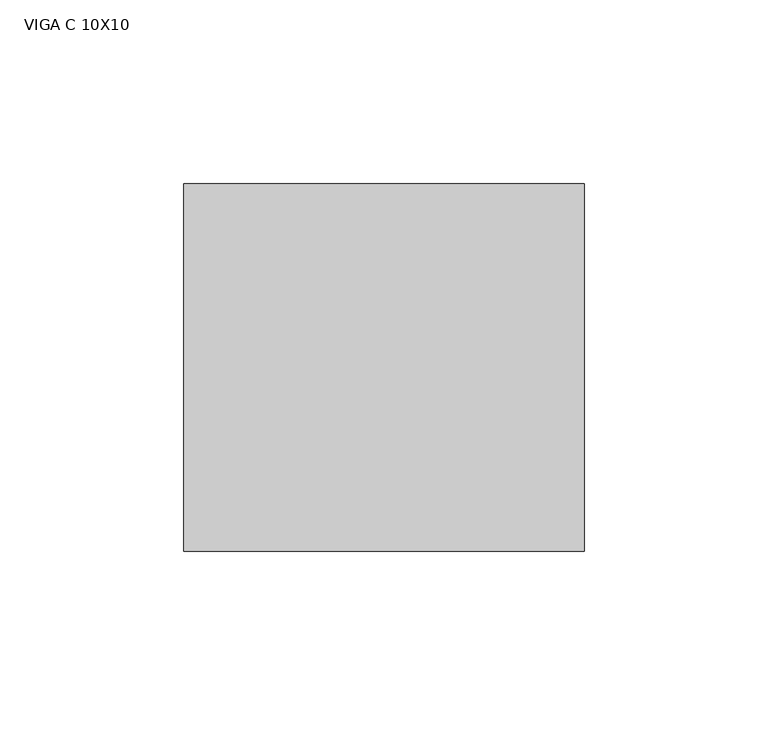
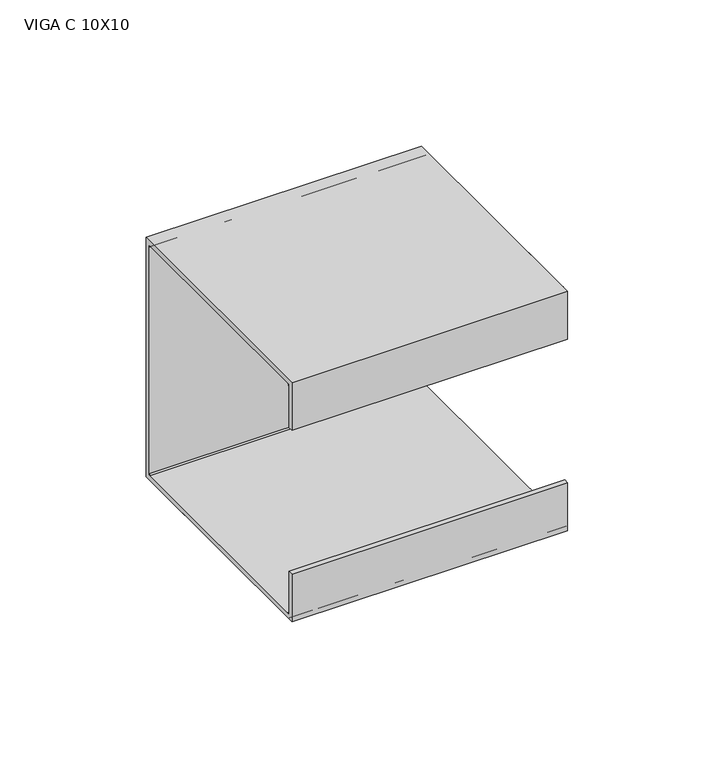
"""IFC4 building model written with IfcOpenShell, lengths in millimetres: beam geometry, VIGA PERFIL C AÇO : VIGA C 10X10."""

from ifc_helpers import new_model, si_unit, point, frame, frame_2d, origin, place, context, project, spatial, polyline, circle_curve, trimmed, segment, composite_curve, outline, extrude, source, transform, mapped, element, save


def viga_c_10x10_5beb1303(model_context):
    return source(origin(), model_context, "Body", "SweptSolid", [
        extrude(outline(polyline([(9.2, -50.0), (-90.8, -50.0), (-90.8, -30.0), (-88.9, -30.0), (-88.9, -48.1), (7.3, -48.1), (7.3, 48.1), (-88.9, 48.1), (-88.9, 30.0), (-90.8, 30.0), (-90.8, 50.0), (9.2, 50.0), (9.2, -50.0)])), frame((-62.0, 0.0, 0.0), z_axis=(1.0, 0.0, 0.0), x_axis=(0.0, 1.0, 0.0)), (0.0, 0.0, 1.0), 109.0),
        extrude(outline(composite_curve([segment(trimmed(circle_curve(frame_2d((5.4, -46.2)), 3.8), [point((9.2, -46.2))], [point((5.4, -50.0))], False, "CARTESIAN"), True, "CONTINUOUS"), segment(polyline([(5.4, -50.0), (-87.0, -50.0)]), True, "CONTINUOUS"), segment(trimmed(circle_curve(frame_2d((-87.0, -46.2)), 3.8), [point((-87.0, -50.0))], [point((-90.8, -46.2))], False, "CARTESIAN"), True, "CONTINUOUS"), segment(polyline([(-90.8, -46.2), (-90.8, -30.0), (-88.9, -30.0), (-88.9, -46.2)]), True, "CONTINUOUS"), segment(trimmed(circle_curve(frame_2d((-87.0, -46.2)), 1.9), [point((-88.9, -46.2))], [point((-87.0, -48.1))], True, "CARTESIAN"), True, "CONTINUOUS"), segment(polyline([(-87.0, -48.1), (5.4, -48.1)]), True, "CONTINUOUS"), segment(trimmed(circle_curve(frame_2d((5.4, -46.2)), 1.9), [point((5.4, -48.1))], [point((7.3, -46.2))], True, "CARTESIAN"), True, "CONTINUOUS"), segment(polyline([(7.3, -46.2), (7.3, 46.2)]), True, "CONTINUOUS"), segment(trimmed(circle_curve(frame_2d((5.4, 46.2)), 1.9), [point((7.3, 46.2))], [point((5.4, 48.1))], True, "CARTESIAN"), True, "CONTINUOUS"), segment(polyline([(5.4, 48.1), (-87.0, 48.1)]), True, "CONTINUOUS"), segment(trimmed(circle_curve(frame_2d((-87.0, 46.2)), 1.9), [point((-87.0, 48.1))], [point((-88.9, 46.2))], True, "CARTESIAN"), True, "CONTINUOUS"), segment(polyline([(-88.9, 46.2), (-88.9, 30.0), (-90.8, 30.0), (-90.8, 46.2)]), True, "CONTINUOUS"), segment(trimmed(circle_curve(frame_2d((-87.0, 46.2)), 3.8), [point((-90.8, 46.2))], [point((-87.0, 50.0))], False, "CARTESIAN"), True, "CONTINUOUS"), segment(polyline([(-87.0, 50.0), (5.4, 50.0)]), True, "CONTINUOUS"), segment(trimmed(circle_curve(frame_2d((5.4, 46.2)), 3.8), [point((5.4, 50.0))], [point((9.2, 46.2))], False, "CARTESIAN"), True, "CONTINUOUS"), segment(polyline([(9.2, 46.2), (9.2, -46.2)]), True, "CONTINUOUS")], self_intersect=False)), frame((-62.0, 0.0, 0.0), z_axis=(1.0, 0.0, 0.0), x_axis=(0.0, 1.0, 0.0)), (0.0, 0.0, 1.0), 109.0),
    ])


if __name__ == "__main__":
    model = new_model("IFC4")
    model_context = context("Model", 3, world=origin())
    ifc_project = project(units=[si_unit("LENGTHUNIT", "METRE", prefix="MILLI")], contexts=[model_context])
    site = spatial("IfcSite", under=ifc_project)
    building = spatial("IfcBuilding", under=site)
    placement = place(None, origin())
    viga_c_10x10_shape = viga_c_10x10_5beb1303(model_context)
    element("IfcBeam", 1, ObjectType="VIGA PERFIL C AÇO : VIGA C 10X10", at=placement, inside=building, context=model_context, shape_type="MappedRepresentation", body=[
        mapped(viga_c_10x10_shape, transform((0.0, 0.0, 0.0), x_axis=(1.0, 0.0, 0.0), y_axis=(0.0, 1.0, 0.0), z_axis=(0.0, 0.0, 1.0))),
    ])
    save(model, "model.ifc")
